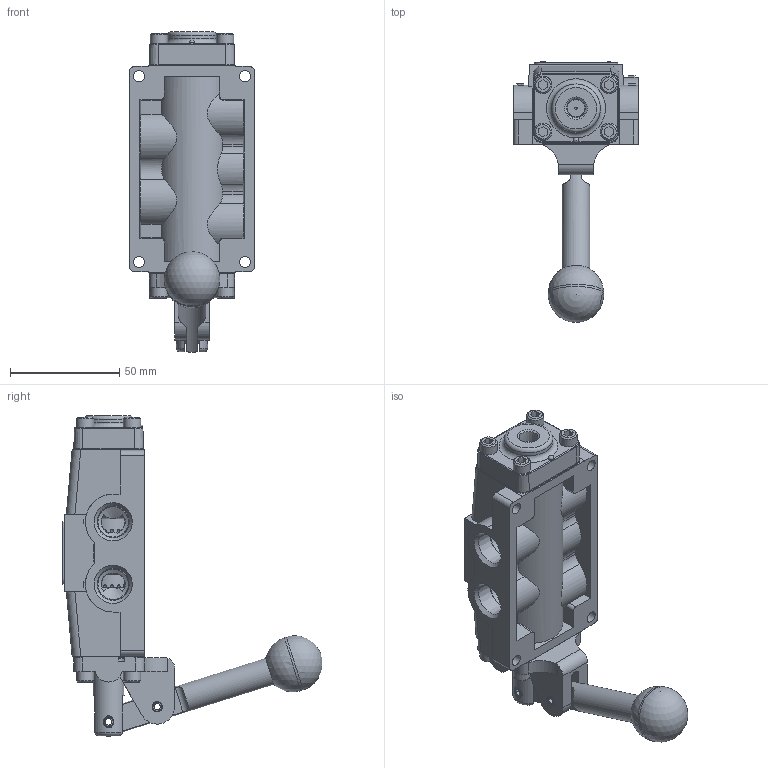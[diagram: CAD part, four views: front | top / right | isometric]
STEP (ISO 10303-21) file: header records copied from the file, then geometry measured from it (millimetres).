
FILE_DESCRIPTION(/* description */ (''),/* implementation_level */ '2;1');
FILE_NAME(/* name */ 'D:\Website Files\stp\Valves\Lever\HR\HR3TSS.stp',/* time_stamp */ '2016-07-22T12:24:50-04:00',/* author */ ('RMcKenna'),/* organization */ (''),/* preprocessor_version */ 'ST-DEVELOPER v15.6',/* originating_system */ 'Autodesk Inventor 2015',/* authorisation */ '');
FILE_SCHEMA (('AUTOMOTIVE_DESIGN { 1 0 10303 214 3 1 1 }'));
Length unit declared in the file: centimetre
Products named in the file (1): Part13
Bounding box: 57.15 x 119.26 x 146.73 mm (x, y, z)
Volume: 172040.9 mm3; surface area: 63887.6 mm2
Topology: 2 solids, 27 shells, 1238 faces, 3038 edges, 1949 vertices
Faces by surface type: plane 544, cone 262, cylinder 250, torus 97, bspline 80, sphere 5
Full cylindrical faces by diameter (mm): 1.016 x1, 2.07 x2, 2.261 x2, 2.778 x2, 3.175 x2, 3.683 x8, 4.75 x2, 4.763 x2, 4.826 x8, 4.978 x4, 5.08 x1, 5.156 x13, 5.41 x1, 7.798 x1, 7.938 x8, 7.95 x1, 8.153 x1, 9.922 x1, 11.113 x1, 11.303 x2, 12.7 x1, 13.894 x5, 14.275 x1, 14.986 x1, 18.605 x1, 18.618 x3, 18.745 x12, 19.177 x2, 23.825 x9, 25.4 x1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
Entity records: 39391 total; most frequent: CARTESIAN_POINT 11259, DIRECTION 5570, ORIENTED_EDGE 5450, EDGE_CURVE 2724, AXIS2_PLACEMENT_3D 2172, VERTEX_POINT 1848, EDGE_LOOP 1607, FACE_OUTER_BOUND 1238
